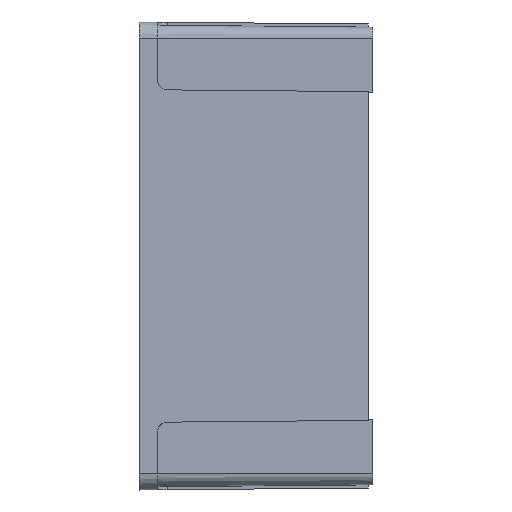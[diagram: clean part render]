
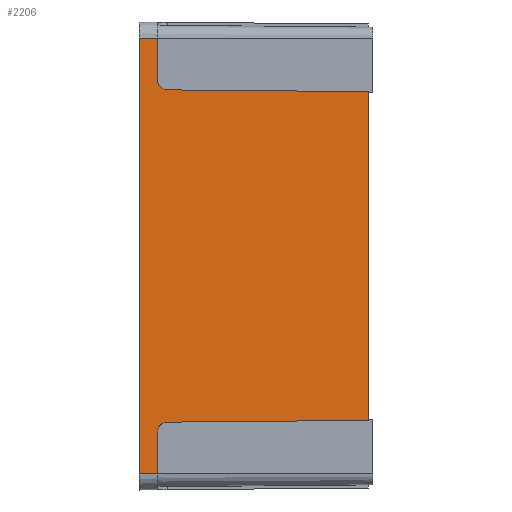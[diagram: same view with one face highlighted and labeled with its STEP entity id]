
A CAD part, left-side view. The second image highlights one B-rep face of the part: STEP entity #2206.
In plain terms, the highlighted planar face has unit normal (-1, -0.009, 0).
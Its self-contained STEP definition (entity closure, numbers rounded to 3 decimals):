
#2044 = VERTEX_POINT ( 'NONE', #5670 ) ;
#2053 = VERTEX_POINT ( 'NONE', #5694 ) ;
#2054 = VERTEX_POINT ( 'NONE', #5743 ) ;
#2061 = EDGE_CURVE ( 'NONE', #2054, #2044, #5674, .T. ) ;
#2076 = VERTEX_POINT ( 'NONE', #5746 ) ;
#2078 = EDGE_CURVE ( 'NONE', #2076, #2053, #5745, .T. ) ;
#2093 = EDGE_CURVE ( 'NONE', #2094, #2095, #5688, .T. ) ;
#2094 = VERTEX_POINT ( 'NONE', #5684 ) ;
#2095 = VERTEX_POINT ( 'NONE', #5683 ) ;
#2199 = EDGE_LOOP ( 'NONE', ( #2200, #2414, #2417, #2428, #2419, #2265, #2284, #2264, #2423, #2262 ) ) ;
#2200 = ORIENTED_EDGE ( 'NONE', *, *, #2201, .F. ) ;
#2201 = EDGE_CURVE ( 'NONE', #2413, #2044, #5993, .T. ) ;
#2206 = ADVANCED_FACE ( 'NONE', ( #5985 ), #5984, .T. ) ;
#2261 = EDGE_CURVE ( 'NONE', #2076, #2266, #5975, .T. ) ;
#2262 = ORIENTED_EDGE ( 'NONE', *, *, #2061, .T. ) ;
#2263 = VERTEX_POINT ( 'NONE', #5970 ) ;
#2264 = ORIENTED_EDGE ( 'NONE', *, *, #2403, .T. ) ;
#2265 = ORIENTED_EDGE ( 'NONE', *, *, #2078, .F. ) ;
#2266 = VERTEX_POINT ( 'NONE', #5971 ) ;
#2284 = ORIENTED_EDGE ( 'NONE', *, *, #2261, .T. ) ;
#2295 = EDGE_CURVE ( 'NONE', #2054, #2263, #6013, .T. ) ;
#2381 = EDGE_CURVE ( 'NONE', #2416, #2094, #6185, .T. ) ;
#2403 = EDGE_CURVE ( 'NONE', #2266, #2263, #6231, .T. ) ;
#2413 = VERTEX_POINT ( 'NONE', #6188 ) ;
#2414 = ORIENTED_EDGE ( 'NONE', *, *, #2415, .T. ) ;
#2415 = EDGE_CURVE ( 'NONE', #2413, #2416, #6359, .T. ) ;
#2416 = VERTEX_POINT ( 'NONE', #6319 ) ;
#2417 = ORIENTED_EDGE ( 'NONE', *, *, #2381, .T. ) ;
#2419 = ORIENTED_EDGE ( 'NONE', *, *, #2420, .F. ) ;
#2420 = EDGE_CURVE ( 'NONE', #2053, #2095, #6280, .T. ) ;
#2423 = ORIENTED_EDGE ( 'NONE', *, *, #2295, .F. ) ;
#2428 = ORIENTED_EDGE ( 'NONE', *, *, #2093, .T. ) ;
#5670 = CARTESIAN_POINT ( 'NONE',  ( -49.622, -49., 35.157 ) ) ;
#5671 = DIRECTION ( 'NONE',  ( 0., 0., 1. ) ) ;
#5672 = VECTOR ( 'NONE', #5671, 1000. ) ;
#5673 = CARTESIAN_POINT ( 'NONE',  ( -49.622, -49., -46.55 ) ) ;
#5674 = LINE ( 'NONE', #5673, #5672 ) ;
#5683 = CARTESIAN_POINT ( 'NONE',  ( -50.05, 0., 46.55 ) ) ;
#5684 = CARTESIAN_POINT ( 'NONE',  ( -50.015, -4., 46.55 ) ) ;
#5685 = DIRECTION ( 'NONE',  ( -0.009, 1., 0. ) ) ;
#5686 = VECTOR ( 'NONE', #5685, 1000. ) ;
#5687 = CARTESIAN_POINT ( 'NONE',  ( -50.05, 0., 46.55 ) ) ;
#5688 = LINE ( 'NONE', #5687, #5686 ) ;
#5694 = CARTESIAN_POINT ( 'NONE',  ( -50.05, 0., -46.55 ) ) ;
#5743 = CARTESIAN_POINT ( 'NONE',  ( -49.622, -49., -35.157 ) ) ;
#5744 = CARTESIAN_POINT ( 'NONE',  ( -50.05, 0., -46.55 ) ) ;
#5745 = LINE ( 'NONE', #5744, #5754 ) ;
#5746 = CARTESIAN_POINT ( 'NONE',  ( -50.015, -4., -46.55 ) ) ;
#5753 = DIRECTION ( 'NONE',  ( -0.009, 1., 0. ) ) ;
#5754 = VECTOR ( 'NONE', #5753, 1000. ) ;
#5945 = DIRECTION ( 'NONE',  ( -0.009, 1., -0.009 ) ) ;
#5946 = VECTOR ( 'NONE', #5945, 1000. ) ;
#5970 = CARTESIAN_POINT ( 'NONE',  ( -49.998, -5.983, -35.533 ) ) ;
#5971 = CARTESIAN_POINT ( 'NONE',  ( -50.015, -4., -37.533 ) ) ;
#5972 = DIRECTION ( 'NONE',  ( 0., 0., 1. ) ) ;
#5973 = VECTOR ( 'NONE', #5972, 1000. ) ;
#5974 = CARTESIAN_POINT ( 'NONE',  ( -50.015, -4., -46.55 ) ) ;
#5975 = LINE ( 'NONE', #5974, #5973 ) ;
#5980 = DIRECTION ( 'NONE',  ( 0.009, -1., 0. ) ) ;
#5981 = DIRECTION ( 'NONE',  ( -1., -0.009, 0. ) ) ;
#5982 = CARTESIAN_POINT ( 'NONE',  ( -50.05, 0., -46.55 ) ) ;
#5983 = AXIS2_PLACEMENT_3D ( 'NONE', #5982, #5981, #5980 ) ;
#5984 = PLANE ( 'NONE',  #5983 ) ;
#5985 = FACE_OUTER_BOUND ( 'NONE', #2199, .T. ) ;
#5990 = DIRECTION ( 'NONE',  ( 0.009, -1., -0.009 ) ) ;
#5991 = VECTOR ( 'NONE', #5990, 1000. ) ;
#5992 = CARTESIAN_POINT ( 'NONE',  ( -50.044, -0.717, 35.579 ) ) ;
#5993 = LINE ( 'NONE', #5992, #5991 ) ;
#6012 = CARTESIAN_POINT ( 'NONE',  ( -50.051, 0.096, -35.586 ) ) ;
#6013 = LINE ( 'NONE', #6012, #5946 ) ;
#6182 = DIRECTION ( 'NONE',  ( 0., 0., 1. ) ) ;
#6183 = VECTOR ( 'NONE', #6182, 1000. ) ;
#6184 = CARTESIAN_POINT ( 'NONE',  ( -50.015, -4., -46.55 ) ) ;
#6185 = LINE ( 'NONE', #6184, #6183 ) ;
#6188 = CARTESIAN_POINT ( 'NONE',  ( -49.998, -5.983, 35.533 ) ) ;
#6227 = CARTESIAN_POINT ( 'NONE',  ( -49.998, -5.983, -35.533 ) ) ;
#6228 = CARTESIAN_POINT ( 'NONE',  ( -50.008, -4.819, -35.543 ) ) ;
#6229 = CARTESIAN_POINT ( 'NONE',  ( -50.015, -4., -36.369 ) ) ;
#6230 = CARTESIAN_POINT ( 'NONE',  ( -50.015, -4., -37.533 ) ) ;
#6231 =( BOUNDED_CURVE ( )  B_SPLINE_CURVE ( 3, ( #6230, #6229, #6228, #6227 ),
 .UNSPECIFIED., .F., .T. ) 
 B_SPLINE_CURVE_WITH_KNOTS ( ( 4, 4 ),
 ( 3.142, 4.704 ),
 .UNSPECIFIED. ) 
 CURVE ( )  GEOMETRIC_REPRESENTATION_ITEM ( )  RATIONAL_B_SPLINE_CURVE ( ( 1., 0.807, 0.807, 1. ) ) 
 REPRESENTATION_ITEM ( '' )  );
#6262 = CARTESIAN_POINT ( 'NONE',  ( -50.015, -4., 37.533 ) ) ;
#6263 = CARTESIAN_POINT ( 'NONE',  ( -50.015, -4., 36.369 ) ) ;
#6264 = CARTESIAN_POINT ( 'NONE',  ( -50.008, -4.819, 35.543 ) ) ;
#6277 = DIRECTION ( 'NONE',  ( 0., 0., 1. ) ) ;
#6278 = VECTOR ( 'NONE', #6277, 1000. ) ;
#6279 = CARTESIAN_POINT ( 'NONE',  ( -50.05, 0., -46.55 ) ) ;
#6280 = LINE ( 'NONE', #6279, #6278 ) ;
#6287 = CARTESIAN_POINT ( 'NONE',  ( -49.998, -5.983, 35.533 ) ) ;
#6319 = CARTESIAN_POINT ( 'NONE',  ( -50.015, -4., 37.533 ) ) ;
#6359 =( BOUNDED_CURVE ( )  B_SPLINE_CURVE ( 3, ( #6287, #6264, #6263, #6262 ),
 .UNSPECIFIED., .F., .F. ) 
 B_SPLINE_CURVE_WITH_KNOTS ( ( 4, 4 ),
 ( 4.721, 6.283 ),
 .UNSPECIFIED. ) 
 CURVE ( )  GEOMETRIC_REPRESENTATION_ITEM ( )  RATIONAL_B_SPLINE_CURVE ( ( 1., 0.807, 0.807, 1. ) ) 
 REPRESENTATION_ITEM ( '' )  );
